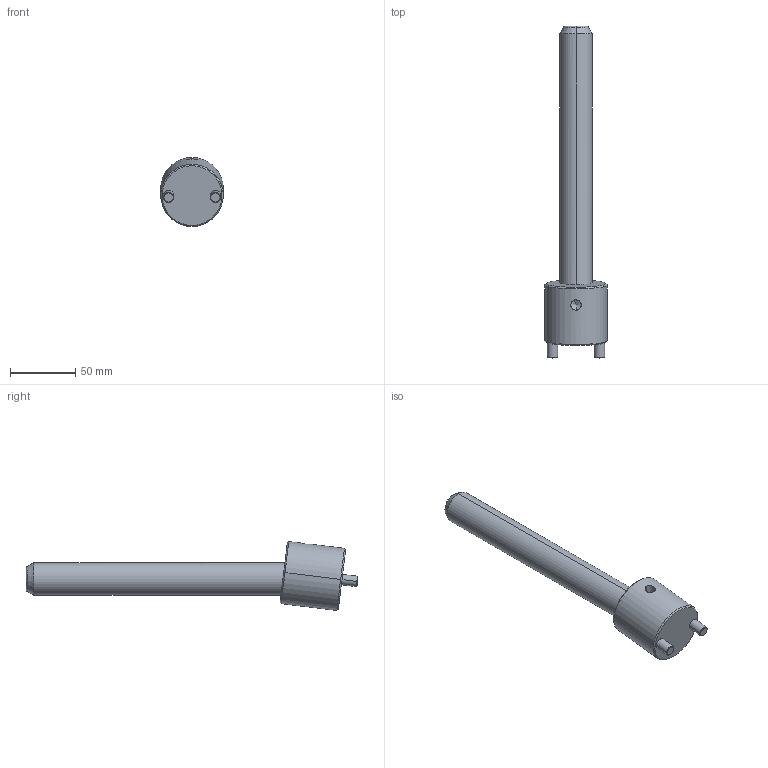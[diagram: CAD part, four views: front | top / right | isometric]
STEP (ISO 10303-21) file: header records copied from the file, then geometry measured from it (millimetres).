
FILE_DESCRIPTION(('CATIA V5 STEP Exchange'),'2;1');
FILE_NAME('C:\Users\Raffaele\Desktop\3D BOLEX\3D FILES CF BOLEX\19-INCLINED ASSEMBLY REF_CI\CI0725200.stp','2019-06-24T07:30:15+00:00',('none'),('none'),'CATIA Version 5 Release 20 GA (IN-10)','CATIA V5 STEP AP203','none');
FILE_SCHEMA(('CONFIG_CONTROL_DESIGN'));
Length unit declared in the file: millimetre
Products named in the file (1): CI0725200
Assembly tree (2 placements, depth 2):
  CI0725200
    #58
    #602
Bounding box: 48 x 254.61 x 52.88 mm (x, y, z)
Volume: 177211.4 mm3; surface area: 33332.1 mm2
Topology: 2 solids, 2 shells, 39 faces, 82 edges, 47 vertices
Faces by surface type: cone 14, cylinder 14, plane 7, torus 4
Entity records: 1527 total; most frequent: CARTESIAN_POINT 668, ORIENTED_EDGE 160, DIRECTION 145, EDGE_CURVE 80, AXIS2_PLACEMENT_3D 72, VERTEX_POINT 47, EDGE_LOOP 43, ADVANCED_FACE 39
